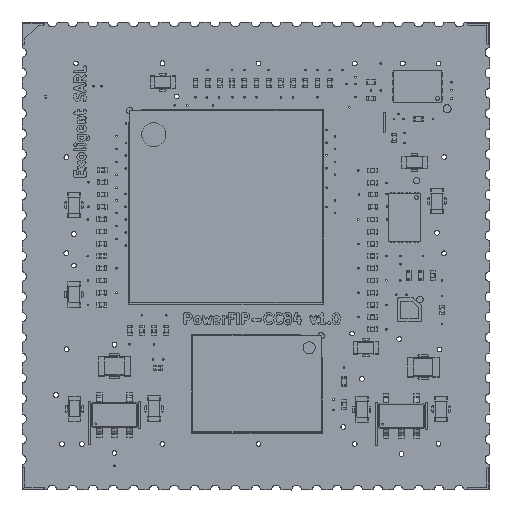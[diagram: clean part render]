
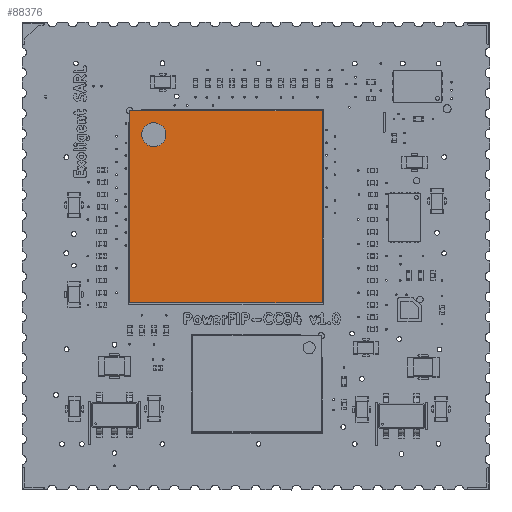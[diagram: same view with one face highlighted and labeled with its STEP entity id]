
A CAD part, top view. The second image highlights one B-rep face of the part: STEP entity #88376.
In plain terms, the highlighted planar face has unit normal (0, 0, -1).
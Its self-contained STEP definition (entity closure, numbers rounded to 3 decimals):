
#8364 = AXIS2_PLACEMENT_3D ( 'NONE', #19550, #19552, #19553 ) ;
#19542 = PLANE ( 'NONE',  #8364 ) ;
#19550 = CARTESIAN_POINT ( 'NONE',  ( 6.739, -17.534, 2.595 ) ) ;
#19552 = DIRECTION ( 'NONE',  ( 0., 0., 1. ) ) ;
#19553 = DIRECTION ( 'NONE',  ( 1., 0., 0. ) ) ;
#29898 = FACE_BOUND ( 'NONE', #99564, .T. ) ;
#29907 = FACE_OUTER_BOUND ( 'NONE', #99562, .T. ) ;
#44032 = CARTESIAN_POINT ( 'NONE',  ( 6.739, -5.534, 2.595 ) ) ;
#45410 = CARTESIAN_POINT ( 'NONE',  ( 18.739, -17.534, 2.595 ) ) ;
#45639 = CARTESIAN_POINT ( 'NONE',  ( 18.739, -5.534, 2.595 ) ) ;
#63323 = VERTEX_POINT ( 'NONE', #102068 ) ;
#85863 = LINE ( 'NONE', #87708, #85867 ) ;
#85867 = VECTOR ( 'NONE', #87709, 1000. ) ;
#86293 = LINE ( 'NONE', #88159, #86303 ) ;
#86303 = VECTOR ( 'NONE', #88169, 1000. ) ;
#86436 = CIRCLE ( 'NONE', #89861, 0.75 ) ;
#86689 = ORIENTED_EDGE ( 'NONE', *, *, #124742, .F. ) ;
#86694 = ORIENTED_EDGE ( 'NONE', *, *, #124786, .F. ) ;
#86698 = ORIENTED_EDGE ( 'NONE', *, *, #125075, .T. ) ;
#86714 = ORIENTED_EDGE ( 'NONE', *, *, #124611, .F. ) ;
#86722 = ORIENTED_EDGE ( 'NONE', *, *, #130069, .T. ) ;
#87708 = CARTESIAN_POINT ( 'NONE',  ( 6.739, -17.534, 2.595 ) ) ;
#87709 = DIRECTION ( 'NONE',  ( 0., -1., 0. ) ) ;
#88159 = CARTESIAN_POINT ( 'NONE',  ( 6.739, -17.534, 2.595 ) ) ;
#88169 = DIRECTION ( 'NONE',  ( 1., 0., 0. ) ) ;
#88376 = ADVANCED_FACE ( 'NONE', ( #29898, #29907 ), #19542, .F. ) ;
#89861 = AXIS2_PLACEMENT_3D ( 'NONE', #92547, #92549, #92551 ) ;
#92547 = CARTESIAN_POINT ( 'NONE',  ( 8.239, -7.034, 2.595 ) ) ;
#92549 = DIRECTION ( 'NONE',  ( 0., 0., -1. ) ) ;
#92551 = DIRECTION ( 'NONE',  ( 1., 0., 0. ) ) ;
#93578 = CARTESIAN_POINT ( 'NONE',  ( 18.739, -17.534, 2.595 ) ) ;
#93579 = DIRECTION ( 'NONE',  ( 0., -1., 0. ) ) ;
#94032 = LINE ( 'NONE', #93578, #94035 ) ;
#94035 = VECTOR ( 'NONE', #93579, 1000. ) ;
#94863 = VERTEX_POINT ( 'NONE', #44032 ) ;
#99562 = EDGE_LOOP ( 'NONE', ( #86698, #86689, #86714, #86722 ) ) ;
#99564 = EDGE_LOOP ( 'NONE', ( #86694 ) ) ;
#102068 = CARTESIAN_POINT ( 'NONE',  ( 6.739, -17.534, 2.595 ) ) ;
#104681 = LINE ( 'NONE', #106573, #104685 ) ;
#104685 = VECTOR ( 'NONE', #106564, 1000. ) ;
#106564 = DIRECTION ( 'NONE',  ( 1., 0., 0. ) ) ;
#106573 = CARTESIAN_POINT ( 'NONE',  ( 6.739, -5.534, 2.595 ) ) ;
#115383 = VERTEX_POINT ( 'NONE', #45410 ) ;
#115864 = VERTEX_POINT ( 'NONE', #45639 ) ;
#120740 = VERTEX_POINT ( 'NONE', #122262 ) ;
#122262 = CARTESIAN_POINT ( 'NONE',  ( 8.989, -7.034, 2.595 ) ) ;
#124611 = EDGE_CURVE ( 'NONE', #94863, #63323, #85863, .T. ) ;
#124742 = EDGE_CURVE ( 'NONE', #63323, #115383, #86293, .T. ) ;
#124786 = EDGE_CURVE ( 'NONE', #120740, #120740, #86436, .T. ) ;
#125075 = EDGE_CURVE ( 'NONE', #115864, #115383, #94032, .T. ) ;
#130069 = EDGE_CURVE ( 'NONE', #94863, #115864, #104681, .T. ) ;
